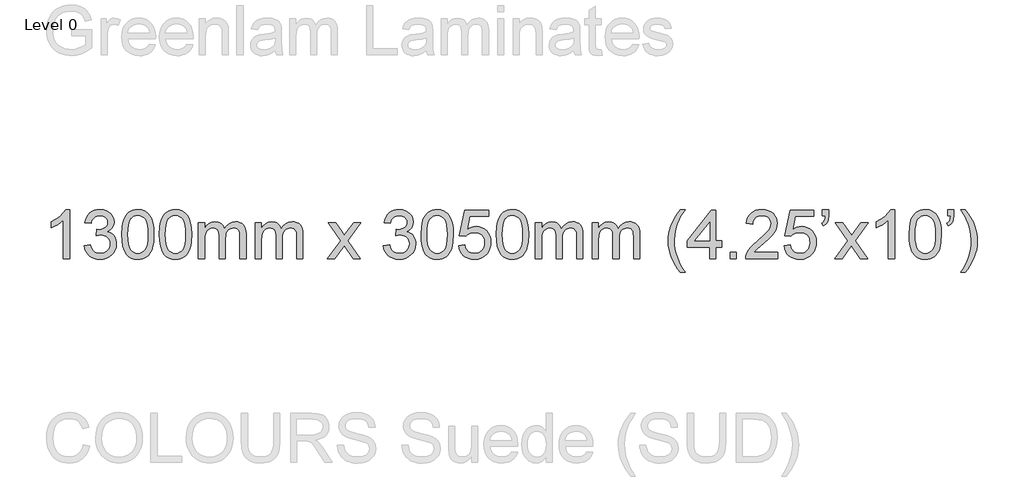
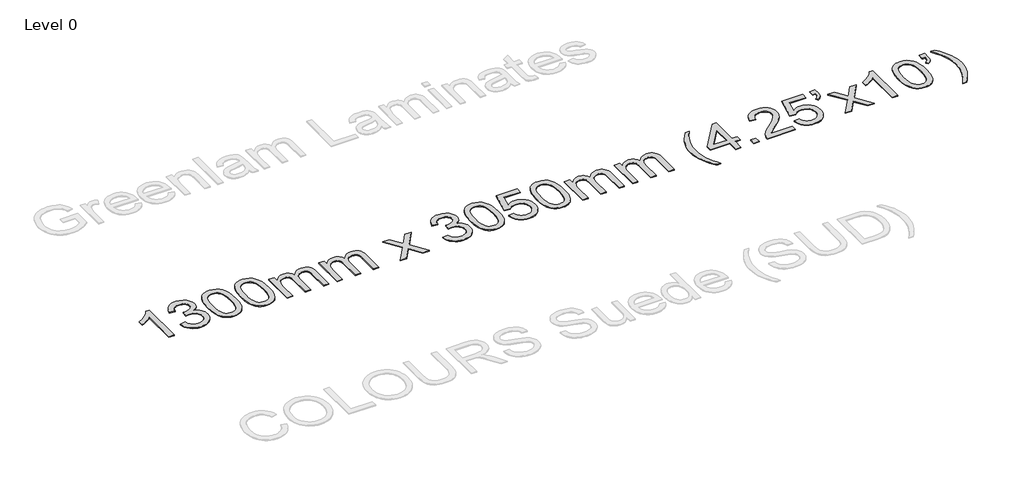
# One storey, part 36 of 37: 1 proxy.
"""IFC4 building model written with IfcOpenShell, lengths in millimetres."""

from ifc_helpers import new_model, si_unit, origin, origin_with_axes, place, context, project, spatial, polyline, outline, extrude, element, save

model = new_model("IFC4")

# Units and contexts
model_context = context("Model", 3, world=origin())
ifc_project = project(units=[si_unit("LENGTHUNIT", "METRE", prefix="MILLI")], contexts=[model_context])

# Site, building, storey
site = spatial("IfcSite", under=ifc_project)
building = spatial("IfcBuilding", under=site)
storey = spatial("IfcBuildingStorey", under=building, Name="Level 0", Elevation=0.0)

# Proxy
placement = place(None, origin())
element("IfcBuildingElementProxy", 1, Name="600mm Arial", ObjectType="600mm Arial", at=placement, inside=storey, context=model_context, shape_type="SweptSolid", body=[
    extrude(outline(polyline([(-10623.1831502, 260.1279527), (-10698.5253828, 260.1279527), (-10698.5253828, 729.8396841), (-10729.9792934, 704.4006441), (-10769.8944899, 678.9983924), (-10811.7962491, 656.796714), (-10849.209848, 640.9593941), (-10849.209848, 712.1813483), (-10790.0360291, 744.3710229), (-10738.7716731, 782.6675386), (-10698.3598359, 823.3920755), (-10671.7435735, 862.8658136), (-10623.1831502, 862.8658136), (-10623.1831502, 260.1279527)])), origin_with_axes(), (0.0, 0.0, 1.0), 10.0),
    extrude(outline(polyline([(-10444.2453477, 420.230197), (-10368.9031151, 429.647976), (-10352.0357256, 382.3015633), (-10340.6635735, 364.3949072), (-10327.3324497, 350.3326179), (-10311.7388516, 339.7100253), (-10293.5792766, 332.1224591), (-10272.8537247, 327.5699194), (-10249.5621959, 326.0524062), (-10222.2653518, 328.1401365), (-10197.9115638, 334.4033275), (-10176.5008316, 344.8419791), (-10158.0331555, 359.4560914), (-10143.1615258, 377.1512153), (-10132.5389332, 396.8329021), (-10126.1653776, 418.5011516), (-10124.0408591, 442.1559639), (-10126.1469835, 464.6841376), (-10132.4653568, 485.1797632), (-10142.9959789, 503.6428409), (-10157.7388499, 520.0733705), (-10175.7282794, 533.5608441), (-10195.9985774, 543.1947539), (-10218.5497437, 548.9750997), (-10243.3817784, 550.9018817), (-10267.1837434, 548.8417425), (-10296.2096329, 542.661325), (-10287.8219234, 618.0035576), (-10275.7553939, 617.1206408), (-10230.6162731, 622.5285061), (-10190.2596183, 638.7521021), (-10173.6497462, 651.0209666), (-10161.7855518, 666.1960989), (-10154.6670352, 684.277499), (-10152.2941963, 705.2651668), (-10154.0140447, 722.3027017), (-10159.1735897, 737.8043293), (-10167.7728313, 751.7700496), (-10179.8117696, 764.1998625), (-10194.5638376, 774.4039893), (-10211.3024684, 781.6926513), (-10250.7394183, 787.523581), (-10271.3959923, 786.052053), (-10290.2499445, 781.637469), (-10307.301275, 774.2798291), (-10322.5499837, 763.9791333), (-10335.6189916, 750.7353814), (-10346.1312196, 734.5485737), (-10354.0866678, 715.4187099), (-10359.485336, 693.3457902), (-10434.8275686, 702.7635693), (-10425.8972332, 738.7332313), (-10412.6442843, 770.4170682), (-10395.068722, 797.8150798), (-10373.1705463, 820.9272661), (-10347.6395358, 839.2753806), (-10319.1654694, 852.3811767), (-10287.748347, 860.2446544), (-10253.3881686, 862.8658136), (-10206.0233617, 857.6970715), (-10162.5213158, 842.1908454), (-10125.8434809, 817.7266928), (-10098.951307, 785.684171), (-10082.4517996, 748.7672128), (-10076.9519637, 709.6797508), (-10082.1758881, 673.2594333), (-10097.8476611, 640.2236301), (-10123.7465535, 612.0806575), (-10159.6518363, 590.3388315), (-10134.5438901, 582.4845509), (-10112.4893645, 571.2825442), (-10093.4882594, 556.7328113), (-10077.5405749, 538.8353522), (-10064.9222225, 518.0316254), (-10055.9091136, 494.7630892), (-10050.5012483, 469.0297436), (-10048.6986265, 440.8315887), (-10052.3038701, 402.6086494), (-10063.1196007, 367.4023425), (-10081.1458185, 335.2126679), (-10106.3825234, 306.0396257), (-10137.1282611, 281.8329904), (-10171.6815775, 264.5425366), (-10210.0424725, 254.1682643), (-10252.2109462, 250.7101736), (-10290.3235209, 253.6624266), (-10325.0515813, 262.5191856), (-10356.3951273, 277.2804507), (-10384.3541589, 297.9462218), (-10407.797439, 323.3024883), (-10425.5937306, 352.1352397), (-10437.7430335, 384.4444759), (-10444.2453477, 420.230197)])), origin_with_axes(), (0.0, 0.0, 1.0), 10.0),
    extrude(outline(polyline([(-9982.774173, 556.6408408), (-9977.2375489, 653.117894), (-9970.3167689, 694.0309704), (-9960.6276769, 730.0604133), (-9948.2116595, 761.5005283), (-9933.1101036, 788.645621), (-9915.3230092, 811.4956915), (-9894.8503761, 830.0507396), (-9871.6232267, 844.4073345), (-9845.5725829, 854.6620451), (-9816.6984448, 860.8148714), (-9785.0008124, 862.8658136), (-9738.5741046, 858.0097712), (-9697.0034391, 843.4416442), (-9662.2385906, 819.7316496), (-9636.2293335, 787.4500046), (-9616.584435, 746.8726205), (-9600.912662, 698.2754089), (-9590.6487543, 636.5632042), (-9587.2274518, 556.6408408), (-9592.7088935, 460.7156105), (-9599.5606956, 419.9404899), (-9609.1532187, 383.9570322), (-9621.472667, 352.5031217), (-9636.505245, 325.3166422), (-9654.2509528, 302.3975939), (-9674.7097902, 283.7459768), (-9697.9645308, 269.2928129), (-9724.0979481, 258.9691244), (-9753.1100419, 252.7749113), (-9785.0008124, 250.7101736), (-9826.4979014, 254.297023), (-9863.2861009, 265.0575714), (-9895.3654109, 282.9918187), (-9922.7358314, 308.0997648), (-9949.0026058, 353.487206), (-9967.7645876, 410.0398657), (-9979.0217766, 477.757744), (-9982.774173, 556.6408408)]), holes=[polyline([(-9907.4319404, 556.7879936), (-9905.2246484, 491.2912029), (-9898.6027725, 438.2748088), (-9887.5663126, 397.7388115), (-9872.1152688, 369.6832108), (-9853.4268635, 350.5947338), (-9832.6783189, 336.9601074), (-9809.8696352, 328.7793315), (-9785.0008124, 326.0524062), (-9760.1319895, 328.7885285), (-9737.3233058, 336.9968956), (-9716.5747613, 350.6775073), (-9697.8863559, 369.8303636), (-9682.4353121, 397.9319495), (-9671.3988523, 438.4587498), (-9664.7769763, 491.4107645), (-9662.5696844, 556.7879936), (-9664.7033999, 620.5511404), (-9671.1045467, 672.6340339), (-9681.7731245, 713.036674), (-9696.7091335, 741.7590608), (-9715.0848392, 761.7810383), (-9736.072507, 776.0824509), (-9759.672137, 784.6632984), (-9785.8837292, 787.523581), (-9810.6237933, 785.0035893), (-9833.0462009, 777.4436143), (-9853.150952, 764.843656), (-9870.9380464, 747.2037143), (-9886.904125, 715.9337447), (-9898.3084669, 673.774468), (-9905.151072, 620.7258843), (-9907.4319404, 556.7879936)])]), origin_with_axes(), (0.0, 0.0, 1.0), 10.0),
    extrude(outline(polyline([(-9521.3029982, 556.6408408), (-9515.7663742, 653.117894), (-9508.8455942, 694.0309704), (-9499.1565021, 730.0604133), (-9486.7404848, 761.5005283), (-9471.6389289, 788.645621), (-9453.8518344, 811.4956915), (-9433.3792014, 830.0507396), (-9410.1520519, 844.4073345), (-9384.1014081, 854.6620451), (-9355.22727, 860.8148714), (-9323.5296376, 862.8658136), (-9277.1029298, 858.0097712), (-9235.5322644, 843.4416442), (-9200.7674158, 819.7316496), (-9174.7581588, 787.4500046), (-9155.1132602, 746.8726205), (-9139.4414872, 698.2754089), (-9129.1775796, 636.5632042), (-9125.756277, 556.6408408), (-9131.2377187, 460.7156105), (-9138.0895209, 419.9404899), (-9147.6820439, 383.9570322), (-9160.0014922, 352.5031217), (-9175.0340703, 325.3166422), (-9192.779778, 302.3975939), (-9213.2386155, 283.7459768), (-9236.4933561, 269.2928129), (-9262.6267733, 258.9691244), (-9291.6388672, 252.7749113), (-9323.5296376, 250.7101736), (-9365.0267267, 254.297023), (-9401.8149262, 265.0575714), (-9433.8942362, 282.9918187), (-9461.2646566, 308.0997648), (-9487.5314311, 353.487206), (-9506.2934128, 410.0398657), (-9517.5506019, 477.757744), (-9521.3029982, 556.6408408)]), holes=[polyline([(-9445.9607656, 556.7879936), (-9443.7534736, 491.2912029), (-9437.1315977, 438.2748088), (-9426.0951379, 397.7388115), (-9410.6440941, 369.6832108), (-9391.9556887, 350.5947338), (-9371.2071442, 336.9601074), (-9348.3984605, 328.7793315), (-9323.5296376, 326.0524062), (-9298.6608147, 328.7885285), (-9275.852131, 336.9968956), (-9255.1035865, 350.6775073), (-9236.4151812, 369.8303636), (-9220.9641374, 397.9319495), (-9209.9276775, 438.4587498), (-9203.3058016, 491.4107645), (-9201.0985096, 556.7879936), (-9203.2322252, 620.5511404), (-9209.6333719, 672.6340339), (-9220.3019498, 713.036674), (-9235.2379588, 741.7590608), (-9253.6136644, 761.7810383), (-9274.6013323, 776.0824509), (-9298.2009622, 784.6632984), (-9324.4125544, 787.523581), (-9349.1526186, 785.0035893), (-9371.5750262, 777.4436143), (-9391.6797772, 764.843656), (-9409.4668717, 747.2037143), (-9425.4329503, 715.9337447), (-9436.8372921, 673.774468), (-9443.6798972, 620.7258843), (-9445.9607656, 556.7879936)])]), origin_with_axes(), (0.0, 0.0, 1.0), 10.0),
    extrude(outline(polyline([(-9040.9962653, 260.1279527), (-9040.9962653, 702.7635693), (-8965.6540327, 702.7635693), (-8965.6540327, 629.9229342), (-8942.9925018, 663.3818017), (-8913.8562478, 689.5933938), (-8879.238552, 706.5343597), (-8840.132696, 712.1813483), (-8798.2309367, 706.4239951), (-8780.397857, 699.2273036), (-8764.6433105, 689.1519354), (-8739.5537585, 661.5056035), (-8723.1462215, 624.6254335), (-8695.6838305, 662.9311462), (-8664.3586787, 690.2923696), (-8629.1707658, 706.7091037), (-8590.120092, 712.1813483), (-8559.958367, 709.9050785), (-8533.4846589, 703.076269), (-8510.6989678, 691.6949197), (-8491.6012937, 675.7610308), (-8476.5043363, 655.0906612), (-8465.7207954, 629.4998699), (-8459.2506708, 598.988657), (-8457.0939626, 563.5570223), (-8457.0939626, 260.1279527), (-8532.4361952, 260.1279527), (-8532.4361952, 531.1834067), (-8534.1836347, 568.7625525), (-8539.4259531, 594.0912279), (-8549.2484024, 611.436864), (-8564.7362344, 625.0668919), (-8584.6570444, 633.8960598), (-8607.7784278, 636.8391157), (-8629.1293791, 634.9537205), (-8648.5949352, 629.2975348), (-8666.175096, 619.8705587), (-8681.8698616, 606.6727921), (-8694.7779211, 589.317959), (-8703.9979636, 567.4197832), (-8709.5299891, 540.9782648), (-8711.3739976, 509.9934038), (-8711.3739976, 260.1279527), (-8786.7162303, 260.1279527), (-8786.7162303, 539.5711162), (-8791.0756319, 582.1718512), (-8796.5248839, 598.8920879), (-8804.1538368, 612.5589041), (-8814.2659932, 623.1814967), (-8827.1648556, 630.7690628), (-8842.8504242, 635.3216025), (-8861.3226989, 636.8391157), (-8890.3485883, 632.7924138), (-8917.0936093, 620.6523079), (-8939.1665291, 600.7131038), (-8954.1761145, 573.269107), (-8962.7845531, 535.1933205), (-8965.6540327, 483.3587473), (-8965.6540327, 260.1279527), (-9040.9962653, 260.1279527)])), origin_with_axes(), (0.0, 0.0, 1.0), 10.0),
    extrude(outline(polyline([(-8344.0806137, 260.1279527), (-8344.0806137, 702.7635693), (-8268.738381, 702.7635693), (-8268.738381, 629.9229342), (-8246.0768501, 663.3818017), (-8216.9405961, 689.5933938), (-8182.3229004, 706.5343597), (-8143.2170443, 712.1813483), (-8101.315285, 706.4239951), (-8083.4822053, 699.2273036), (-8067.7276589, 689.1519354), (-8042.6381068, 661.5056035), (-8026.2305698, 624.6254335), (-7998.7681789, 662.9311462), (-7967.443027, 690.2923696), (-7932.2551142, 706.7091037), (-7893.2044404, 712.1813483), (-7863.0427153, 709.9050785), (-7836.5690072, 703.076269), (-7813.7833161, 691.6949197), (-7794.6856421, 675.7610308), (-7779.5886847, 655.0906612), (-7768.8051437, 629.4998699), (-7762.3350191, 598.988657), (-7760.1783109, 563.5570223), (-7760.1783109, 260.1279527), (-7835.5205435, 260.1279527), (-7835.5205435, 531.1834067), (-7837.267983, 568.7625525), (-7842.5103014, 594.0912279), (-7852.3327507, 611.436864), (-7867.8205827, 625.0668919), (-7887.7413927, 633.8960598), (-7910.8627761, 636.8391157), (-7932.2137274, 634.9537205), (-7951.6792835, 629.2975348), (-7969.2594443, 619.8705587), (-7984.95421, 606.6727921), (-7997.8622695, 589.317959), (-8007.082312, 567.4197832), (-8012.6143375, 540.9782648), (-8014.458346, 509.9934038), (-8014.458346, 260.1279527), (-8089.8005786, 260.1279527), (-8089.8005786, 539.5711162), (-8094.1599802, 582.1718512), (-8099.6092323, 598.8920879), (-8107.2381852, 612.5589041), (-8117.3503415, 623.1814967), (-8130.249204, 630.7690628), (-8145.9347725, 635.3216025), (-8164.4070472, 636.8391157), (-8193.4329366, 632.7924138), (-8220.1779577, 620.6523079), (-8242.2508774, 600.7131038), (-8257.2604628, 573.269107), (-8265.8689015, 535.1933205), (-8268.738381, 483.3587473), (-8268.738381, 260.1279527), (-8344.0806137, 260.1279527)])), origin_with_axes(), (0.0, 0.0, 1.0), 10.0),
    extrude(outline(polyline([(-7458.8093805, 260.1279527), (-7297.8242194, 482.6229834), (-7449.3916014, 702.7635693), (-7358.7454778, 702.7635693), (-7285.6105371, 596.8135547), (-7251.471088, 546.7816033), (-7221.8933756, 587.6900812), (-7138.6048919, 702.7635693), (-7047.9587682, 702.7635693), (-7207.1780958, 482.6229834), (-7053.8448802, 260.1279527), (-7144.4910038, 260.1279527), (-7236.7558082, 393.8898461), (-7253.67838, 418.3172106), (-7368.1632569, 260.1279527), (-7458.8093805, 260.1279527)])), origin_with_axes(), (0.0, 0.0, 1.0), 10.0),
    extrude(outline(polyline([(-6771.3115079, 420.230197), (-6695.9692753, 429.647976), (-6679.1018858, 382.3015633), (-6667.7297336, 364.3949072), (-6654.3986098, 350.3326179), (-6638.8050117, 339.7100253), (-6620.6454368, 332.1224591), (-6599.9198848, 327.5699194), (-6576.628356, 326.0524062), (-6549.331512, 328.1401365), (-6524.9777239, 334.4033275), (-6503.5669918, 344.8419791), (-6485.0993156, 359.4560914), (-6470.227686, 377.1512153), (-6459.6050934, 396.8329021), (-6453.2315378, 418.5011516), (-6451.1070193, 442.1559639), (-6453.2131437, 464.6841376), (-6459.531517, 485.1797632), (-6470.0621391, 503.6428409), (-6484.80501, 520.0733705), (-6502.7944396, 533.5608441), (-6523.0647375, 543.1947539), (-6545.6159038, 548.9750997), (-6570.4479385, 550.9018817), (-6594.2499036, 548.8417425), (-6623.275793, 542.661325), (-6614.8880835, 618.0035576), (-6602.8215541, 617.1206408), (-6557.6824333, 622.5285061), (-6517.3257784, 638.7521021), (-6500.7159063, 651.0209666), (-6488.851712, 666.1960989), (-6481.7331954, 684.277499), (-6479.3603565, 705.2651668), (-6481.0802048, 722.3027017), (-6486.2397498, 737.8043293), (-6494.8389915, 751.7700496), (-6506.8779297, 764.1998625), (-6521.6299977, 774.4039893), (-6538.3686285, 781.6926513), (-6577.8055784, 787.523581), (-6598.4621524, 786.052053), (-6617.3161047, 781.637469), (-6634.3674352, 774.2798291), (-6649.6161439, 763.9791333), (-6662.6851517, 750.7353814), (-6673.1973798, 734.5485737), (-6681.1528279, 715.4187099), (-6686.5514962, 693.3457902), (-6761.8937288, 702.7635693), (-6752.9633934, 738.7332313), (-6739.7104445, 770.4170682), (-6722.1348822, 797.8150798), (-6700.2367064, 820.9272661), (-6674.7056959, 839.2753806), (-6646.2316295, 852.3811767), (-6614.8145071, 860.2446544), (-6580.4543288, 862.8658136), (-6533.0895219, 857.6970715), (-6489.587476, 842.1908454), (-6452.9096411, 817.7266928), (-6426.0174672, 785.684171), (-6409.5179597, 748.7672128), (-6404.0181239, 709.6797508), (-6409.2420482, 673.2594333), (-6424.9138212, 640.2236301), (-6450.8127137, 612.0806575), (-6486.7179964, 590.3388315), (-6461.6100502, 582.4845509), (-6439.5555246, 571.2825442), (-6420.5544196, 556.7328113), (-6404.6067351, 538.8353522), (-6391.9883826, 518.0316254), (-6382.9752738, 494.7630892), (-6377.5674084, 469.0297436), (-6375.7647867, 440.8315887), (-6379.3700302, 402.6086494), (-6390.1857609, 367.4023425), (-6408.2119786, 335.2126679), (-6433.4486835, 306.0396257), (-6464.1944213, 281.8329904), (-6498.7477376, 264.5425366), (-6537.1086327, 254.1682643), (-6579.2771064, 250.7101736), (-6617.3896811, 253.6624266), (-6652.1177414, 262.5191856), (-6683.4612874, 277.2804507), (-6711.4203191, 297.9462218), (-6734.8635992, 323.3024883), (-6752.6598907, 352.1352397), (-6764.8091936, 384.4444759), (-6771.3115079, 420.230197)])), origin_with_axes(), (0.0, 0.0, 1.0), 10.0),
    extrude(outline(polyline([(-6309.8403331, 556.6408408), (-6304.3037091, 653.117894), (-6297.3829291, 694.0309704), (-6287.693837, 730.0604133), (-6275.2778197, 761.5005283), (-6260.1762638, 788.645621), (-6242.3891693, 811.4956915), (-6221.9165363, 830.0507396), (-6198.6893868, 844.4073345), (-6172.638743, 854.6620451), (-6143.7646049, 860.8148714), (-6112.0669725, 862.8658136), (-6065.6402647, 858.0097712), (-6024.0695993, 843.4416442), (-5989.3047507, 819.7316496), (-5963.2954937, 787.4500046), (-5943.6505951, 746.8726205), (-5927.9788221, 698.2754089), (-5917.7149145, 636.5632042), (-5914.2936119, 556.6408408), (-5919.7750536, 460.7156105), (-5926.6268558, 419.9404899), (-5936.2193788, 383.9570322), (-5948.5388271, 352.5031217), (-5963.5714052, 325.3166422), (-5981.3171129, 302.3975939), (-6001.7759504, 283.7459768), (-6025.030691, 269.2928129), (-6051.1641082, 258.9691244), (-6080.1762021, 252.7749113), (-6112.0669725, 250.7101736), (-6153.5640616, 254.297023), (-6190.3522611, 265.0575714), (-6222.4315711, 282.9918187), (-6249.8019915, 308.0997648), (-6276.068766, 353.487206), (-6294.8307477, 410.0398657), (-6306.0879368, 477.757744), (-6309.8403331, 556.6408408)]), holes=[polyline([(-6234.4981005, 556.7879936), (-6232.2908085, 491.2912029), (-6225.6689326, 438.2748088), (-6214.6324728, 397.7388115), (-6199.181429, 369.6832108), (-6180.4930236, 350.5947338), (-6159.7444791, 336.9601074), (-6136.9357954, 328.7793315), (-6112.0669725, 326.0524062), (-6087.1981496, 328.7885285), (-6064.3894659, 336.9968956), (-6043.6409214, 350.6775073), (-6024.9525161, 369.8303636), (-6009.5014723, 397.9319495), (-5998.4650124, 438.4587498), (-5991.8431365, 491.4107645), (-5989.6358445, 556.7879936), (-5991.7695601, 620.5511404), (-5998.1707068, 672.6340339), (-6008.8392847, 713.036674), (-6023.7752937, 741.7590608), (-6042.1509993, 761.7810383), (-6063.1386672, 776.0824509), (-6086.7382972, 784.6632984), (-6112.9498893, 787.523581), (-6137.6899535, 785.0035893), (-6160.1123611, 777.4436143), (-6180.2171121, 764.843656), (-6198.0042066, 747.2037143), (-6213.9702852, 715.9337447), (-6225.374627, 673.774468), (-6232.2172321, 620.7258843), (-6234.4981005, 556.7879936)])]), origin_with_axes(), (0.0, 0.0, 1.0), 10.0),
    extrude(outline(polyline([(-5848.3691584, 420.230197), (-5773.0269258, 429.647976), (-5767.3983312, 405.4275452), (-5759.1945627, 384.4168847), (-5748.4156203, 366.6159947), (-5735.0615039, 352.0248751), (-5719.1598046, 340.6619199), (-5700.7381137, 332.5455234), (-5679.7964311, 327.6756855), (-5656.3347569, 326.0524062), (-5627.6399613, 328.310282), (-5602.32968, 335.0839092), (-5580.4039131, 346.3732879), (-5561.8626605, 362.1784181), (-5547.1197896, 381.7175506), (-5536.5891675, 404.2089361), (-5530.2707942, 429.6525746), (-5528.1646698, 458.0484661), (-5530.137437, 484.8854576), (-5536.0557386, 508.742605), (-5545.9195746, 529.6199082), (-5559.728945, 547.5173673), (-5577.529835, 561.8739622), (-5599.3682299, 572.1286728), (-5625.2441298, 578.2814991), (-5655.1575345, 580.3324413), (-5691.7066107, 577.0582915), (-5721.3027172, 567.2358422), (-5744.9391354, 552.1894686), (-5763.6091467, 533.2435459), (-5838.9513793, 542.661325), (-5773.0269258, 853.4480345), (-5481.0757744, 853.4480345), (-5481.0757744, 778.1058019), (-5712.1056674, 778.1058019), (-5744.3321301, 612.1174457), (-5717.7434589, 631.173733), (-5690.5109942, 644.7853668), (-5662.6347361, 652.9523471), (-5634.1146844, 655.6746739), (-5597.4230539, 652.2993566), (-5563.7204646, 642.1734047), (-5533.0069165, 625.2968181), (-5505.2824097, 601.669597), (-5482.3311717, 572.7356781), (-5465.9374303, 539.9389982), (-5456.1011854, 503.2795574), (-5452.8224372, 462.7573556), (-5455.7746902, 423.7250759), (-5464.6314492, 387.415123), (-5479.3927143, 353.8274968), (-5500.0584853, 322.9621974), (-5531.3652431, 291.351937), (-5567.8959253, 268.7731796), (-5609.6505317, 255.2259251), (-5656.6290625, 250.7101736), (-5695.5095909, 253.6118428), (-5730.6285258, 262.3168505), (-5761.9858674, 276.8251967), (-5789.5816155, 297.1368814), (-5812.5420506, 322.240229), (-5829.9934527, 351.1235642), (-5841.935822, 383.7868868), (-5848.3691584, 420.230197)])), origin_with_axes(), (0.0, 0.0, 1.0), 10.0),
    extrude(outline(polyline([(-5386.8979836, 556.6408408), (-5381.3613596, 653.117894), (-5374.4405796, 694.0309704), (-5364.7514875, 730.0604133), (-5352.3354702, 761.5005283), (-5337.2339143, 788.645621), (-5319.4468198, 811.4956915), (-5298.9741868, 830.0507396), (-5275.7470373, 844.4073345), (-5249.6963935, 854.6620451), (-5220.8222554, 860.8148714), (-5189.124623, 862.8658136), (-5142.6979152, 858.0097712), (-5101.1272498, 843.4416442), (-5066.3624012, 819.7316496), (-5040.3531442, 787.4500046), (-5020.7082456, 746.8726205), (-5005.0364726, 698.2754089), (-4994.772565, 636.5632042), (-4991.3512624, 556.6408408), (-4996.8327041, 460.7156105), (-5003.6845063, 419.9404899), (-5013.2770293, 383.9570322), (-5025.5964776, 352.5031217), (-5040.6290557, 325.3166422), (-5058.3747634, 302.3975939), (-5078.8336009, 283.7459768), (-5102.0883415, 269.2928129), (-5128.2217587, 258.9691244), (-5157.2338526, 252.7749113), (-5189.124623, 250.7101736), (-5230.6217121, 254.297023), (-5267.4099116, 265.0575714), (-5299.4892216, 282.9918187), (-5326.859642, 308.0997648), (-5353.1264165, 353.487206), (-5371.8883982, 410.0398657), (-5383.1455873, 477.757744), (-5386.8979836, 556.6408408)]), holes=[polyline([(-5311.555751, 556.7879936), (-5309.348459, 491.2912029), (-5302.7265831, 438.2748088), (-5291.6901233, 397.7388115), (-5276.2390795, 369.6832108), (-5257.5506741, 350.5947338), (-5236.8021296, 336.9601074), (-5213.9934459, 328.7793315), (-5189.124623, 326.0524062), (-5164.2558001, 328.7885285), (-5141.4471164, 336.9968956), (-5120.6985719, 350.6775073), (-5102.0101666, 369.8303636), (-5086.5591228, 397.9319495), (-5075.5226629, 438.4587498), (-5068.900787, 491.4107645), (-5066.693495, 556.7879936), (-5068.8272106, 620.5511404), (-5075.2283573, 672.6340339), (-5085.8969352, 713.036674), (-5100.8329442, 741.7590608), (-5119.2086498, 761.7810383), (-5140.1963177, 776.0824509), (-5163.7959477, 784.6632984), (-5190.0075398, 787.523581), (-5214.747604, 785.0035893), (-5237.1700116, 777.4436143), (-5257.2747626, 764.843656), (-5275.0618571, 747.2037143), (-5291.0279357, 715.9337447), (-5302.4322775, 673.774468), (-5309.2748826, 620.7258843), (-5311.555751, 556.7879936)])]), origin_with_axes(), (0.0, 0.0, 1.0), 10.0),
    extrude(outline(polyline([(-4906.5912507, 260.1279527), (-4906.5912507, 702.7635693), (-4831.2490181, 702.7635693), (-4831.2490181, 629.9229342), (-4808.5874872, 663.3818017), (-4779.4512332, 689.5933938), (-4744.8335374, 706.5343597), (-4705.7276814, 712.1813483), (-4663.8259221, 706.4239951), (-4645.9928424, 699.2273036), (-4630.2382959, 689.1519354), (-4605.1487439, 661.5056035), (-4588.7412069, 624.6254335), (-4561.278816, 662.9311462), (-4529.9536641, 690.2923696), (-4494.7657512, 706.7091037), (-4455.7150774, 712.1813483), (-4425.5533524, 709.9050785), (-4399.0796443, 703.076269), (-4376.2939532, 691.6949197), (-4357.1962791, 675.7610308), (-4342.0993217, 655.0906612), (-4331.3157808, 629.4998699), (-4324.8456562, 598.988657), (-4322.688948, 563.5570223), (-4322.688948, 260.1279527), (-4398.0311806, 260.1279527), (-4398.0311806, 531.1834067), (-4399.7786201, 568.7625525), (-4405.0209385, 594.0912279), (-4414.8433878, 611.436864), (-4430.3312198, 625.0668919), (-4450.2520298, 633.8960598), (-4473.3734132, 636.8391157), (-4494.7243645, 634.9537205), (-4514.1899206, 629.2975348), (-4531.7700814, 619.8705587), (-4547.464847, 606.6727921), (-4560.3729065, 589.317959), (-4569.592949, 567.4197832), (-4575.1249745, 540.9782648), (-4576.968983, 509.9934038), (-4576.968983, 260.1279527), (-4652.3112157, 260.1279527), (-4652.3112157, 539.5711162), (-4656.6706173, 582.1718512), (-4662.1198694, 598.8920879), (-4669.7488222, 612.5589041), (-4679.8609786, 623.1814967), (-4692.759841, 630.7690628), (-4708.4454096, 635.3216025), (-4726.9176843, 636.8391157), (-4755.9435737, 632.7924138), (-4782.6885947, 620.6523079), (-4804.7615145, 600.7131038), (-4819.7710999, 573.269107), (-4828.3795385, 535.1933205), (-4831.2490181, 483.3587473), (-4831.2490181, 260.1279527), (-4906.5912507, 260.1279527)])), origin_with_axes(), (0.0, 0.0, 1.0), 10.0),
    extrude(outline(polyline([(-4209.6755991, 260.1279527), (-4209.6755991, 702.7635693), (-4134.3333664, 702.7635693), (-4134.3333664, 629.9229342), (-4111.6718355, 663.3818017), (-4082.5355815, 689.5933938), (-4047.9178858, 706.5343597), (-4008.8120297, 712.1813483), (-3966.9102704, 706.4239951), (-3949.0771907, 699.2273036), (-3933.3226443, 689.1519354), (-3908.2330922, 661.5056035), (-3891.8255552, 624.6254335), (-3864.3631643, 662.9311462), (-3833.0380124, 690.2923696), (-3797.8500996, 706.7091037), (-3758.7994258, 712.1813483), (-3728.6377007, 709.9050785), (-3702.1639926, 703.076269), (-3679.3783015, 691.6949197), (-3660.2806275, 675.7610308), (-3645.1836701, 655.0906612), (-3634.4001291, 629.4998699), (-3627.9300045, 598.988657), (-3625.7732963, 563.5570223), (-3625.7732963, 260.1279527), (-3701.1155289, 260.1279527), (-3701.1155289, 531.1834067), (-3702.8629684, 568.7625525), (-3708.1052868, 594.0912279), (-3717.9277361, 611.436864), (-3733.4155681, 625.0668919), (-3753.3363781, 633.8960598), (-3776.4577615, 636.8391157), (-3797.8087128, 634.9537205), (-3817.2742689, 629.2975348), (-3834.8544297, 619.8705587), (-3850.5491954, 606.6727921), (-3863.4572549, 589.317959), (-3872.6772974, 567.4197832), (-3878.2093229, 540.9782648), (-3880.0533314, 509.9934038), (-3880.0533314, 260.1279527), (-3955.395564, 260.1279527), (-3955.395564, 539.5711162), (-3959.7549656, 582.1718512), (-3965.2042177, 598.8920879), (-3972.8331706, 612.5589041), (-3982.9453269, 623.1814967), (-3995.8441894, 630.7690628), (-4011.5297579, 635.3216025), (-4030.0020326, 636.8391157), (-4059.027922, 632.7924138), (-4085.7729431, 620.6523079), (-4107.8458628, 600.7131038), (-4122.8554482, 573.269107), (-4131.4638869, 535.1933205), (-4134.3333664, 483.3587473), (-4134.3333664, 260.1279527), (-4209.6755991, 260.1279527)])), origin_with_axes(), (0.0, 0.0, 1.0), 10.0),
    extrude(outline(polyline([(-3126.6310053, 90.6079293), (-3157.0456492, 129.9621057), (-3185.0138779, 172.5352496), (-3210.5356913, 218.327361), (-3233.6110895, 267.3384398), (-3252.7317562, 318.4188548), (-3266.3893752, 370.4189748), (-3274.5839467, 423.3387998), (-3277.3154705, 477.1783298), (-3275.2737254, 524.4971515), (-3269.1484902, 570.8042976), (-3258.9397648, 616.0997683), (-3244.6475493, 660.3835634), (-3222.9241175, 711.1696729), (-3196.0135496, 761.8454177), (-3163.9158455, 812.4107979), (-3126.6310053, 862.8658136), (-3070.1243308, 862.8658136), (-3114.4541112, 791.2391891), (-3140.6105211, 743.5248943), (-3164.6700036, 686.8710671), (-3182.9905269, 627.862795), (-3197.2275601, 552.4837742), (-3201.9732379, 476.7368714), (-3199.9130987, 428.438564), (-3193.7326812, 380.1494536), (-3183.4319853, 331.8695403), (-3169.0110111, 283.598824), (-3150.4697585, 235.3373047), (-3127.8082276, 187.0849825), (-3101.0264184, 138.8418574), (-3070.1243308, 90.6079293), (-3126.6310053, 90.6079293)])), origin_with_axes(), (0.0, 0.0, 1.0), 10.0),
    extrude(outline(polyline([(-2768.7554004, 260.1279527), (-2768.7554004, 401.3946388), (-3041.8709936, 401.3946388), (-3041.8709936, 476.7368714), (-2749.9198422, 853.4480345), (-2693.4131677, 853.4480345), (-2693.4131677, 476.7368714), (-2618.0709351, 476.7368714), (-2618.0709351, 401.3946388), (-2693.4131677, 401.3946388), (-2693.4131677, 260.1279527), (-2768.7554004, 260.1279527)]), holes=[polyline([(-2768.7554004, 476.7368714), (-2768.7554004, 709.532598), (-2949.1647308, 476.7368714), (-2768.7554004, 476.7368714)])]), origin_with_axes(), (0.0, 0.0, 1.0), 10.0),
    extrude(outline(polyline([(-2514.4753653, 260.1279527), (-2514.4753653, 335.4701853), (-2439.1331327, 335.4701853), (-2439.1331327, 260.1279527), (-2514.4753653, 260.1279527)])), origin_with_axes(), (0.0, 0.0, 1.0), 10.0),
    extrude(outline(polyline([(-1930.5730625, 335.4701853), (-1930.5730625, 260.1279527), (-2326.1197838, 260.1279527), (-2324.4643148, 286.6522445), (-2318.0263799, 312.0728904), (-2299.4483391, 352.6686686), (-2272.2618597, 392.0504361), (-2232.9352744, 433.2716137), (-2177.9369161, 479.3856218), (-2096.6349952, 551.6008574), (-2047.8538426, 604.9069586), (-2033.6260064, 626.6855727), (-2023.4632663, 648.1698812), (-2017.3656223, 669.3598841), (-2015.3330742, 690.2555814), (-2017.2506591, 709.9142755), (-2023.0034138, 727.98188), (-2032.5913383, 744.4583949), (-2046.0144326, 759.3438201), (-2062.5277357, 771.6724655), (-2081.3862865, 780.4786407), (-2102.590085, 785.7623459), (-2126.1391312, 787.523581), (-2150.9481732, 785.8037326), (-2173.1360561, 780.6441876), (-2192.7027797, 772.044946), (-2209.6483441, 760.0060077), (-2223.3565469, 744.932043), (-2233.2111859, 727.2277219), (-2239.2122609, 706.8930447), (-2241.3597721, 683.9280111), (-2316.7020047, 693.3457902), (-2310.222683, 732.2401141), (-2298.4366636, 766.2232134), (-2281.3439464, 795.2950881), (-2258.9445314, 819.4557381), (-2231.7534535, 838.4476461), (-2200.2857473, 852.0132947), (-2164.5414129, 860.1526839), (-2124.5204504, 862.8658136), (-2084.1408029, 859.8491812), (-2048.2033305, 850.7992841), (-2016.7080332, 835.7161223), (-1989.654911, 814.5996958), (-1967.9268806, 789.013503), (-1952.406859, 760.5210425), (-1943.094846, 729.1223142), (-1939.9908416, 694.8173182), (-1943.3385678, 658.7832767), (-1953.3817462, 623.3746347), (-1971.2056289, 587.3589874), (-1997.8954677, 549.5039301), (-2040.4410204, 504.309627), (-2105.832045, 446.2762422), (-2192.5050431, 373.8034892), (-2226.4973395, 335.4701853), (-1930.5730625, 335.4701853)])), origin_with_axes(), (0.0, 0.0, 1.0), 10.0),
    extrude(outline(polyline([(-1855.2308299, 420.230197), (-1779.8885973, 429.647976), (-1774.2600028, 405.4275452), (-1766.0562343, 384.4168847), (-1755.2772918, 366.6159947), (-1741.9231754, 352.0248751), (-1726.0214762, 340.6619199), (-1707.5997853, 332.5455234), (-1686.6581027, 327.6756855), (-1663.1964284, 326.0524062), (-1634.5016328, 328.310282), (-1609.1913516, 335.0839092), (-1587.2655846, 346.3732879), (-1568.7243321, 362.1784181), (-1553.9814611, 381.7175506), (-1543.450839, 404.2089361), (-1537.1324657, 429.6525746), (-1535.0263413, 458.0484661), (-1536.9991085, 484.8854576), (-1542.9174101, 508.742605), (-1552.7812461, 529.6199082), (-1566.5906165, 547.5173673), (-1584.3915066, 561.8739622), (-1606.2299015, 572.1286728), (-1632.1058013, 578.2814991), (-1662.0192061, 580.3324413), (-1698.5682823, 577.0582915), (-1728.1643888, 567.2358422), (-1751.800807, 552.1894686), (-1770.4708182, 533.2435459), (-1845.8130509, 542.661325), (-1779.8885973, 853.4480345), (-1487.9374459, 853.4480345), (-1487.9374459, 778.1058019), (-1718.9673389, 778.1058019), (-1751.1938017, 612.1174457), (-1724.6051305, 631.173733), (-1697.3726658, 644.7853668), (-1669.4964076, 652.9523471), (-1640.9763559, 655.6746739), (-1604.2847254, 652.2993566), (-1570.5821362, 642.1734047), (-1539.8685881, 625.2968181), (-1512.1440812, 601.669597), (-1489.1928433, 572.7356781), (-1472.7991018, 539.9389982), (-1462.962857, 503.2795574), (-1459.6841087, 462.7573556), (-1462.6363617, 423.7250759), (-1471.4931208, 387.415123), (-1486.2543858, 353.8274968), (-1506.9201569, 322.9621974), (-1538.2269147, 291.351937), (-1574.7575968, 268.7731796), (-1616.5122033, 255.2259251), (-1663.490734, 250.7101736), (-1702.3712624, 253.6118428), (-1737.4901974, 262.3168505), (-1768.8475389, 276.8251967), (-1796.4432871, 297.1368814), (-1819.4037221, 322.240229), (-1836.8551243, 351.1235642), (-1848.7974935, 383.7868868), (-1855.2308299, 420.230197)])), origin_with_axes(), (0.0, 0.0, 1.0), 10.0),
    extrude(outline(polyline([(-1384.3418761, 787.523581), (-1384.3418761, 862.8658136), (-1308.9996435, 862.8658136), (-1308.9996435, 787.523581), (-1312.0898523, 742.7155539), (-1321.3604785, 712.4756539), (-1343.3598218, 684.8845043), (-1374.924097, 665.092453), (-1393.7596552, 694.0815542), (-1374.004392, 707.3437001), (-1360.0616644, 726.5287462), (-1351.4532257, 752.8507029), (-1347.7008294, 787.523581), (-1384.3418761, 787.523581)])), origin_with_axes(), (0.0, 0.0, 1.0), 10.0),
    extrude(outline(polyline([(-1233.6574109, 260.1279527), (-1072.6722498, 482.6229834), (-1224.2396318, 702.7635693), (-1133.5935082, 702.7635693), (-1060.4585675, 596.8135547), (-1026.3191184, 546.7816033), (-996.741406, 587.6900812), (-913.4529223, 702.7635693), (-822.8067987, 702.7635693), (-982.0261262, 482.6229834), (-828.6929106, 260.1279527), (-919.3390342, 260.1279527), (-1011.6038386, 393.8898461), (-1028.5264104, 418.3172106), (-1143.0112873, 260.1279527), (-1233.6574109, 260.1279527)])), origin_with_axes(), (0.0, 0.0, 1.0), 10.0),
    extrude(outline(polyline([(-499.0706429, 260.1279527), (-574.4128755, 260.1279527), (-574.4128755, 729.8396841), (-605.8667861, 704.4006441), (-645.7819826, 678.9983924), (-687.6837418, 656.796714), (-725.0973407, 640.9593941), (-725.0973407, 712.1813483), (-665.9235218, 744.3710229), (-614.6591658, 782.6675386), (-574.2473286, 823.3920755), (-547.6310663, 862.8658136), (-499.0706429, 862.8658136), (-499.0706429, 260.1279527)])), origin_with_axes(), (0.0, 0.0, 1.0), 10.0),
    extrude(outline(polyline([(-320.1328405, 556.6408408), (-314.5962164, 653.117894), (-307.6754364, 694.0309704), (-297.9863443, 730.0604133), (-285.570327, 761.5005283), (-270.4687711, 788.645621), (-252.6816766, 811.4956915), (-232.2090436, 830.0507396), (-208.9818941, 844.4073345), (-182.9312504, 854.6620451), (-154.0571123, 860.8148714), (-122.3594798, 862.8658136), (-75.9327721, 858.0097712), (-34.3621066, 843.4416442), (0.4027419, 819.7316496), (26.411999, 787.4500046), (46.0568975, 746.8726205), (61.7286705, 698.2754089), (71.9925782, 636.5632042), (75.4138808, 556.6408408), (69.932439, 460.7156105), (63.0806369, 419.9404899), (53.4881138, 383.9570322), (41.1686655, 352.5031217), (26.1360875, 325.3166422), (8.3903798, 302.3975939), (-12.0684577, 283.7459768), (-35.3231983, 269.2928129), (-61.4566155, 258.9691244), (-90.4687094, 252.7749113), (-122.3594798, 250.7101736), (-163.8565689, 254.297023), (-200.6447684, 265.0575714), (-232.7240784, 282.9918187), (-260.0944988, 308.0997648), (-286.3612733, 353.487206), (-305.1232551, 410.0398657), (-316.3804441, 477.757744), (-320.1328405, 556.6408408)]), holes=[polyline([(-244.7906078, 556.7879936), (-242.5833159, 491.2912029), (-235.96144, 438.2748088), (-224.9249801, 397.7388115), (-209.4739363, 369.6832108), (-190.785531, 350.5947338), (-170.0369864, 336.9601074), (-147.2283027, 328.7793315), (-122.3594798, 326.0524062), (-97.490657, 328.7885285), (-74.6819733, 336.9968956), (-53.9334287, 350.6775073), (-35.2450234, 369.8303636), (-19.7939796, 397.9319495), (-8.7575197, 438.4587498), (-2.1356438, 491.4107645), (0.0716481, 556.7879936), (-2.0620674, 620.5511404), (-8.4632141, 672.6340339), (-19.131792, 713.036674), (-34.067801, 741.7590608), (-52.4435067, 761.7810383), (-73.4311745, 776.0824509), (-97.0308045, 784.6632984), (-123.2423966, 787.523581), (-147.9824608, 785.0035893), (-170.4048684, 777.4436143), (-190.5096195, 764.843656), (-208.2967139, 747.2037143), (-224.2627925, 715.9337447), (-235.6671344, 673.774468), (-242.5097395, 620.7258843), (-244.7906078, 556.7879936)])]), origin_with_axes(), (0.0, 0.0, 1.0), 10.0),
    extrude(outline(polyline([(150.7561134, 787.523581), (150.7561134, 862.8658136), (226.098346, 862.8658136), (226.098346, 787.523581), (223.0081372, 742.7155539), (213.7375109, 712.4756539), (191.7381676, 684.8845043), (160.1738924, 665.092453), (141.3383343, 694.0815542), (161.0935974, 707.3437001), (175.0363251, 726.5287462), (183.6447637, 752.8507029), (187.3971601, 787.523581), (150.7561134, 787.523581)])), origin_with_axes(), (0.0, 0.0, 1.0), 10.0),
    extrude(outline(polyline([(367.3650321, 90.6079293), (310.8583577, 90.6079293), (341.7604453, 138.8418574), (368.5422545, 187.0849825), (391.2037854, 235.3373047), (409.745038, 283.598824), (424.1660122, 331.8695403), (434.4667081, 380.1494536), (440.6471256, 428.438564), (442.7072647, 476.7368714), (437.961587, 551.9319512), (423.7245538, 626.5384199), (405.7351242, 685.6570565), (381.7860063, 742.3476719), (355.5192319, 790.5770015), (310.8583577, 862.8658136), (367.3650321, 862.8658136), (404.6498723, 812.4107979), (436.7475764, 761.8454177), (463.6581444, 711.1696729), (485.3815762, 660.3835634), (499.6737917, 616.0997683), (509.8825171, 570.8042976), (516.0077523, 524.4971515), (518.0494974, 477.1783298), (515.304178, 423.3387998), (507.0682198, 370.4189748), (493.3416229, 318.4188548), (474.1243871, 267.3384398), (450.9800111, 218.327361), (425.4719933, 172.5352496), (397.6003336, 129.9621057), (367.3650321, 90.6079293)])), origin_with_axes(), (0.0, 0.0, 1.0), 10.0),
])

save(model, "model.ifc")
